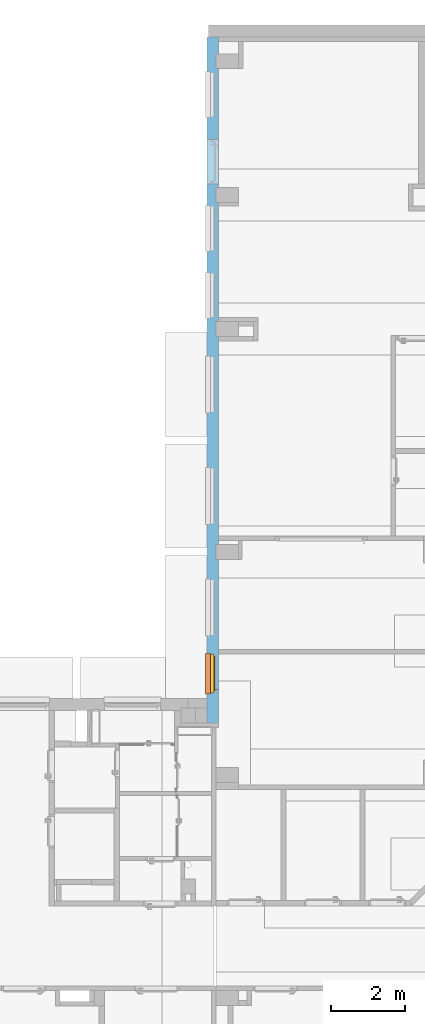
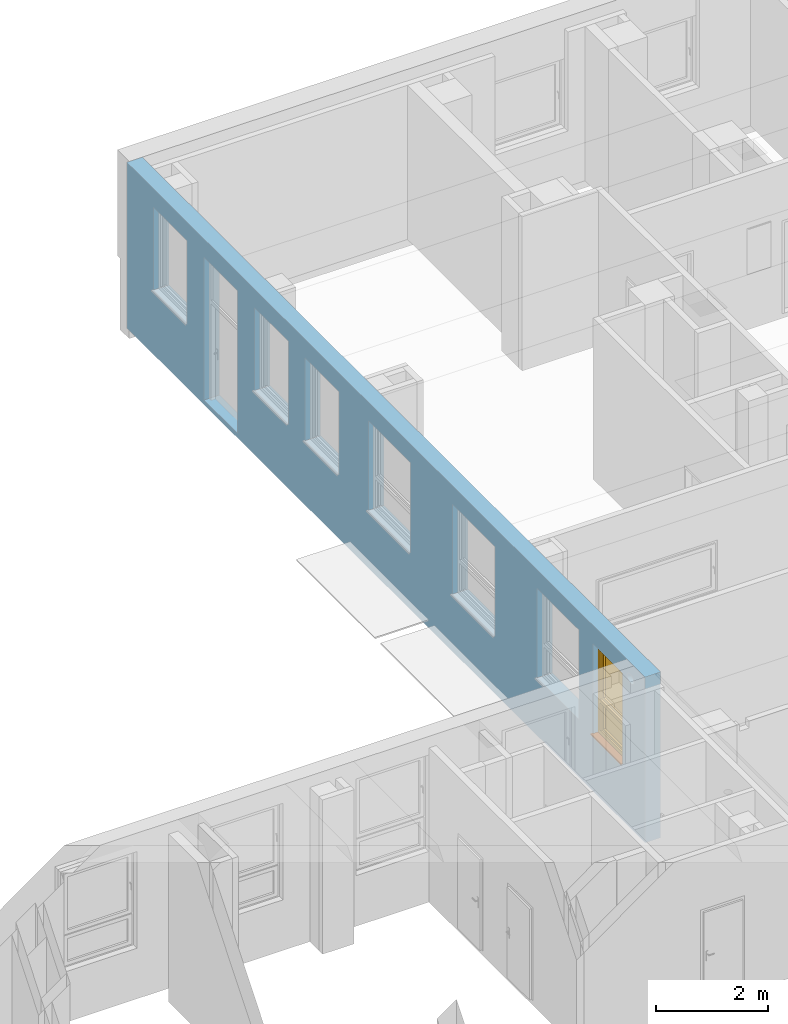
# One storey, part 94 of 140: 1 proxy, 1 window, 9 openings, plus 1 element that does not belong to this part.
"""IFC4 building model written with IfcOpenShell, lengths in metres."""

from ifc_helpers import new_model, entity, si_unit, converted_unit, derived_unit, frame, frame_2d, origin, origin_with_axes, place, context, subcontext, project, spatial, polyline, rectangle, outline, extrude, clip, bounded_halfspace, closed_shell, open_shell, faceted_brep, surface_model, source, transform, mapped, material, layer, layer_set, layer_usage, element, fill, save


model = new_model("IFC4")

# Units and contexts
model_context = context("Model", 3, precision=1e-05, world=origin())
body_context = subcontext(model_context, "Body", "Model", "MODEL_VIEW")
ifc_project = project(units=[si_unit("LENGTHUNIT", "METRE"), si_unit("AREAUNIT", "SQUARE_METRE"), si_unit("VOLUMEUNIT", "CUBIC_METRE"), si_unit("MASSUNIT", "GRAM", prefix="KILO"), converted_unit("PLANEANGLEUNIT", "DEGREE", entity("IfcPlaneAngleMeasure", 0.0174532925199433), si_unit("PLANEANGLEUNIT", "RADIAN"), dimensions=[0, 0, 0, 0, 0, 0, 0]), derived_unit("THERMALTRANSMITTANCEUNIT", [(si_unit("POWERUNIT", "WATT"), 1), (si_unit("THERMODYNAMICTEMPERATUREUNIT", "KELVIN"), -1), (si_unit("LENGTHUNIT", "METRE"), -2)]), derived_unit("VOLUMETRICFLOWRATEUNIT", [(si_unit("LENGTHUNIT", "METRE"), 3), (converted_unit("TIMEUNIT", "hour", entity("IfcTimeMeasure", 3600.0), si_unit("TIMEUNIT", "SECOND"), dimensions=[0, 0, 1, 0, 0, 0, 0]), -1), (si_unit("LENGTHUNIT", "METRE"), -1)])], contexts=[model_context])

# Site, building, storey
site_placement = place(None, origin())
site = spatial("IfcSite", under=ifc_project, at=site_placement, Name="3. ASŘ", CompositionType="ELEMENT")
building_placement = place(site_placement, origin())
building = spatial("IfcBuilding", under=site, at=building_placement, Name="Pavilon C", CompositionType="ELEMENT")
storey_placement = place(building_placement, origin())
storey = spatial("IfcBuildingStorey", under=building, at=storey_placement, Name="Půdorys 1.NP", CompositionType="ELEMENT", Elevation=0.0)

# Wall, openings, window, proxy
ifc_material_1 = material(Name="ZELEZOBETONOVÁ KCE")
ifc_layer = layer(ifc_material_1, 0.32)
ifc_layer_set = layer_set([ifc_layer])
ifc_layer_usage = layer_usage(ifc_layer_set, "AXIS2", "POSITIVE", 0.0)
wall_placement = place(storey_placement, frame((24.5, 33.05, -0.1), z_axis=(0.0, 0.0, 1.0), x_axis=(-1.97180423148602e-16, -1.0, 0.0)))
wall = element("IfcWall", 1, at=wall_placement, inside=storey, material=ifc_layer_usage, Name="ZELEZOBETONOVÁ KCE", context=body_context, shape_type="Clipping", body=[
    clip(clip(clip(clip(extrude(rectangle(XDim=18.45, YDim=0.32, at=frame_2d((9.225, 0.16), x_axis=(1.0, 0.0))), origin_with_axes(), (0.0, 0.0, 1.0), 3.6), bounded_halfspace(frame((0.65, 0.285, 3.35), z_axis=(0.0, 0.0, 1.0), x_axis=(1.97180423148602e-16, -1.0, 0.0)), True, origin_with_axes(), polyline([(0.45, 0.32), (0.45, 0.250000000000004), (0.85, 0.250000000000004), (0.85, 0.32), (0.45, 0.32)]))), bounded_halfspace(frame((4.25, 0.285000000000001, 3.35), z_axis=(0.0, 0.0, 1.0), x_axis=(1.97180423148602e-16, -1.0, 0.0)), True, origin_with_axes(), polyline([(4.05, 0.320000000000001), (4.05, 0.250000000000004), (4.45, 0.250000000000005), (4.45, 0.320000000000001), (4.05, 0.320000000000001)]))), bounded_halfspace(frame((7.85, 0.285000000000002, 3.35), z_axis=(0.0, 0.0, 1.0), x_axis=(1.97180423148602e-16, -1.0, 0.0)), True, origin_with_axes(), polyline([(7.65, 0.320000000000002), (7.65, 0.250000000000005), (8.05, 0.250000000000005), (8.05, 0.320000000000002), (7.65, 0.320000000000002)]))), bounded_halfspace(frame((13.85, 0.285000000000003, 3.35), z_axis=(0.0, 0.0, 1.0), x_axis=(1.97180423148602e-16, -1.0, 0.0)), True, origin_with_axes(), polyline([(13.65, 0.320000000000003), (13.65, 0.250000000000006), (14.05, 0.250000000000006), (14.05, 0.320000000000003), (13.65, 0.320000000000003)]))),
])
opening_1_placement = place(wall_placement, frame((18.3295933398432, 0.32, 3.15000000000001), z_axis=(-0.642787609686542, -0.766044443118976, 0.0), x_axis=(0.0, 0.0, 1.0)))
element("IfcOpeningElement", 2, at=opening_1_placement, cuts=wall, Name="CHL", ObjectType="Opening", context=body_context, shape_type="SweptSolid", body=[
    extrude(outline(polyline([(0.0999999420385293, 0.0), (0.0895470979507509, 0.000547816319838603), (0.0792087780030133, 0.00218525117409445), (0.0690982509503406, 0.00489436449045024), (0.059326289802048, 0.00864547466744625), (0.0499999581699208, 0.0133974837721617), (0.0412214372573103, 0.0190983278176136), (0.0330869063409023, 0.0256855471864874), (0.0256854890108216, 0.0330869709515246), (0.0190982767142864, 0.041221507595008), (0.0133974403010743, 0.0500000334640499), (0.00864543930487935, 0.0593263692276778), (0.0048943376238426, 0.0690983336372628), (0.00218523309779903, 0.0792088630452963), (0.000547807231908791, 0.0895471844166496), (0.0, 0.10000002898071), (0.000547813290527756, 0.110452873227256), (0.00218524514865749, 0.120791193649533), (0.00489435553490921, 0.130901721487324), (0.00864546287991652, 0.140673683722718), (0.0133974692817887, 0.150000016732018), (0.0190983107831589, 0.158778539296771), (0.0256855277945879, 0.166913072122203), (0.0330869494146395, 0.174314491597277), (0.0412214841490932, 0.180901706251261), (0.0500000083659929, 0.186602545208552), (0.0593263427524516, 0.191354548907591), (0.06909830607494, 0.195105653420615), (0.0792088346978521, 0.197814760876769), (0.0895471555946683, 0.199452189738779), (0.0999999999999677, 0.2), (0.110452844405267, 0.199452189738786), (0.120791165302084, 0.197814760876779), (0.130901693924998, 0.195105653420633), (0.140673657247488, 0.191354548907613), (0.14999999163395, 0.186602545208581), (0.158778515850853, 0.180901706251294), (0.16691305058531, 0.174314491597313), (0.174314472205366, 0.166913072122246), (0.180901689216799, 0.158778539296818), (0.186602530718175, 0.150000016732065), (0.191354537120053, 0.140673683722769), (0.195105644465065, 0.130901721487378), (0.197814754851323, 0.120791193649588), (0.199452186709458, 0.11045287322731), (0.199999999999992, 0.100000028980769), (0.199452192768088, 0.0895471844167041), (0.197814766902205, 0.0792088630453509), (0.195105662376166, 0.0690983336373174), (0.191354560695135, 0.0593263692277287), (0.186602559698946, 0.0500000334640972), (0.180901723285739, 0.0412215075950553), (0.174314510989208, 0.0330869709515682), (0.166913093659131, 0.0256855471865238), (0.158778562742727, 0.0190983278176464), (0.15000004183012, 0.0133974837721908), (0.140673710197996, 0.00864547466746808), (0.130901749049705, 0.00489436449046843), (0.120791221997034, 0.00218525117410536), (0.110452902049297, 0.000547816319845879), (0.0999999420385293, 0.0)])), origin_with_axes(), (0.0, 0.0, 1.0), 0.952730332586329),
])
opening_2_placement = place(wall_placement, frame((14.6, -7.5914462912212e-16, 1.25), z_axis=(0.0, 1.0, 0.0), x_axis=(0.0, 0.0, 1.0)))
element("IfcOpeningElement", 3, at=opening_2_placement, cuts=wall, Name="Okenní otvor", ObjectType="Opening", context=body_context, shape_type="SweptSolid", body=[
    extrude(outline(polyline([(0.0, 1.5), (1.95, 1.5), (1.95, 0.0), (0.0, 0.0), (0.0, 1.5)])), origin_with_axes(), (0.0, 0.0, 1.0), 0.32),
])
opening_3_placement = place(wall_placement, frame((11.6, -1.35068589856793e-15, 1.25), z_axis=(0.0, 1.0, 0.0), x_axis=(0.0, 0.0, 1.0)))
element("IfcOpeningElement", 4, at=opening_3_placement, cuts=wall, Name="Okenní otvor", ObjectType="Opening", context=body_context, shape_type="SweptSolid", body=[
    extrude(outline(polyline([(0.0, 1.5), (1.95, 1.5), (1.95, 0.0), (0.0, 0.0), (0.0, 1.5)])), origin_with_axes(), (0.0, 0.0, 1.0), 0.32),
])
opening_4_placement = place(wall_placement, frame((8.6, -1.94222716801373e-15, 1.25), z_axis=(0.0, 1.0, 0.0), x_axis=(0.0, 0.0, 1.0)))
element("IfcOpeningElement", 5, at=opening_4_placement, cuts=wall, Name="Okenní otvor", ObjectType="Opening", context=body_context, shape_type="SweptSolid", body=[
    extrude(outline(polyline([(0.0, 1.5), (1.95, 1.5), (1.95, 0.0), (0.0, 0.0), (0.0, 1.5)])), origin_with_axes(), (0.0, 0.0, 1.0), 0.320000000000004),
])
opening_5_placement = place(wall_placement, frame((6.35, 1.25209568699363e-15, 1.4), z_axis=(0.0, 1.0, 0.0), x_axis=(0.0, 0.0, 1.0)))
element("IfcOpeningElement", 6, at=opening_5_placement, cuts=wall, Name="Okenní otvor", ObjectType="Opening", context=body_context, shape_type="SweptSolid", body=[
    extrude(outline(polyline([(0.0, 1.2), (1.8, 1.2), (1.8, 0.0), (0.0, 0.0), (0.0, 1.2)])), origin_with_axes(), (0.0, 0.0, 1.0), 0.32),
])
opening_6_placement = place(wall_placement, frame((4.55000000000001, 8.97170925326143e-16, 1.4), z_axis=(0.0, 1.0, 0.0), x_axis=(0.0, 0.0, 1.0)))
element("IfcOpeningElement", 7, at=opening_6_placement, cuts=wall, Name="Okenní otvor", ObjectType="Opening", context=body_context, shape_type="SweptSolid", body=[
    extrude(outline(polyline([(0.0, 1.2), (1.8, 1.2), (1.8, 0.0), (0.0, 0.0), (0.0, 1.2)])), origin_with_axes(), (0.0, 0.0, 1.0), 0.32),
])
opening_7_placement = place(wall_placement, frame((0.950000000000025, 1.87321401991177e-16, 1.4), z_axis=(-3.5527136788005e-16, 1.0, 0.0), x_axis=(0.0, 0.0, 1.0)))
element("IfcOpeningElement", 8, at=opening_7_placement, cuts=wall, Name="Okenní otvor", ObjectType="Opening", context=body_context, shape_type="SweptSolid", body=[
    extrude(outline(polyline([(0.0, 1.2), (1.8, 1.2), (1.8, 0.0), (0.0, 0.0), (0.0, 1.2)])), origin_with_axes(), (0.0, 0.0, 1.0), 0.32),
])
opening_8_placement = place(wall_placement, frame((2.75000000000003, 5.42246163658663e-16, 0.1), z_axis=(0.0, 1.0, 0.0), x_axis=(0.0, 0.0, 1.0)))
element("IfcOpeningElement", 9, at=opening_8_placement, cuts=wall, Name="Dveřní otvor", ObjectType="Opening", context=body_context, shape_type="SweptSolid", body=[
    extrude(outline(polyline([(0.0, 1.2), (3.1, 1.2), (3.1, 0.0), (0.0, 0.0), (0.0, 1.2)])), origin_with_axes(), (0.0, 0.0, 1.0), 0.32),
])
opening_9_placement = place(wall_placement, frame((16.6, -3.64783782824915e-16, 1.25), z_axis=(0.0, 1.0, 0.0), x_axis=(0.0, 0.0, 1.0)))
opening_9 = element("IfcOpeningElement", 10, at=opening_9_placement, cuts=wall, Name="Okenní otvor", ObjectType="Opening", context=body_context, shape_type="SweptSolid", body=[
    extrude(outline(polyline([(0.0, 1.05), (1.95, 1.05), (1.95, 0.0), (0.0, 0.0), (0.0, 1.05)])), origin_with_axes(), (0.0, 0.0, 1.0), 0.32),
])
shared_shape_1 = source(origin_with_axes(), body_context, "Body", "SurfaceModel", [
    surface_model("IfcShellBasedSurfaceModel", [(0.0, 0.182, 1.95), (0.0, 0.182, -5.63337527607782e-18), (0.08, 0.182, -5.63337527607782e-18), (0.08, 0.182, 1.95), (0.0, 0.0899999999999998, 5.63337527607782e-18), (0.0, 0.0900000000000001, 1.95), (0.08, 0.0900000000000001, 1.95), (0.08, 0.0899999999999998, 5.63337527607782e-18)], [closed_shell([[[0, 1, 2, 3]], [[4, 5, 6, 7]], [[1, 0, 5, 4]], [[2, 1, 4, 7]], [[3, 2, 7, 6]], [[0, 3, 6, 5]]], orient=[[False], [False], [False], [False], [False], [False]])]),
    surface_model("IfcShellBasedSurfaceModel", [(0.97, 0.182, 1.95), (0.97, 0.182, -5.63337527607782e-18), (1.05, 0.182, -5.63337527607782e-18), (1.05, 0.182, 1.95), (0.97, 0.0899999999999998, 5.63337527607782e-18), (0.97, 0.0900000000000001, 1.95), (1.05, 0.0900000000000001, 1.95), (1.05, 0.0899999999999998, 5.63337527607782e-18)], [closed_shell([[[0, 1, 2, 3]], [[4, 5, 6, 7]], [[1, 0, 5, 4]], [[2, 1, 4, 7]], [[3, 2, 7, 6]], [[0, 3, 6, 5]]], orient=[[False], [False], [False], [False], [False], [False]])]),
    surface_model("IfcShellBasedSurfaceModel", [(0.08, 0.182, 0.08), (0.08, 0.182, -5.63337527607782e-18), (0.97, 0.182, -5.63337527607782e-18), (0.97, 0.182, 0.08), (0.08, 0.0899999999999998, 5.63337527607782e-18), (0.08, 0.0899999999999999, 0.08), (0.97, 0.0899999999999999, 0.08), (0.97, 0.0899999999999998, 5.63337527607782e-18)], [closed_shell([[[0, 1, 2, 3]], [[4, 5, 6, 7]], [[1, 0, 5, 4]], [[2, 1, 4, 7]], [[3, 2, 7, 6]], [[0, 3, 6, 5]]], orient=[[False], [False], [False], [False], [False], [False]])]),
    surface_model("IfcShellBasedSurfaceModel", [(0.08, 0.182, 1.95), (0.08, 0.182, 1.87), (0.97, 0.182, 1.87), (0.97, 0.182, 1.95), (0.08, 0.0900000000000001, 1.87), (0.08, 0.0900000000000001, 1.95), (0.97, 0.0900000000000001, 1.95), (0.97, 0.0900000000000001, 1.87)], [closed_shell([[[0, 1, 2, 3]], [[4, 5, 6, 7]], [[1, 0, 5, 4]], [[2, 1, 4, 7]], [[3, 2, 7, 6]], [[0, 3, 6, 5]]], orient=[[False], [False], [False], [False], [False], [False]])]),
    surface_model("IfcShellBasedSurfaceModel", [(0.08, 0.182, 0.76), (0.08, 0.182, 0.68), (0.97, 0.182, 0.68), (0.97, 0.182, 0.76), (0.08, 0.0899999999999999, 0.68), (0.08, 0.0899999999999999, 0.76), (0.97, 0.0899999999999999, 0.76), (0.97, 0.0899999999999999, 0.68)], [closed_shell([[[0, 1, 2, 3]], [[4, 5, 6, 7]], [[1, 0, 5, 4]], [[2, 1, 4, 7]], [[3, 2, 7, 6]], [[0, 3, 6, 5]]], orient=[[False], [False], [False], [False], [False], [False]])]),
    surface_model("IfcShellBasedSurfaceModel", [(0.05, 0.145, 0.71), (0.05, 0.145, 0.05), (0.13, 0.145, 0.05), (0.13, 0.145, 0.71), (0.05, 0.0599999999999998, 0.05), (0.05, 0.0599999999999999, 0.71), (0.13, 0.0599999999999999, 0.71), (0.13, 0.0599999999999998, 0.05)], [closed_shell([[[0, 1, 2, 3]], [[4, 5, 6, 7]], [[1, 0, 5, 4]], [[2, 1, 4, 7]], [[3, 2, 7, 6]], [[0, 3, 6, 5]]], orient=[[False], [False], [False], [False], [False], [False]])]),
    surface_model("IfcShellBasedSurfaceModel", [(0.92, 0.145, 0.71), (0.92, 0.145, 0.05), (1.0, 0.145, 0.05), (1.0, 0.145, 0.71), (0.92, 0.0599999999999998, 0.05), (0.92, 0.0599999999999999, 0.71), (1.0, 0.0599999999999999, 0.71), (1.0, 0.0599999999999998, 0.05)], [closed_shell([[[0, 1, 2, 3]], [[4, 5, 6, 7]], [[1, 0, 5, 4]], [[2, 1, 4, 7]], [[3, 2, 7, 6]], [[0, 3, 6, 5]]], orient=[[False], [False], [False], [False], [False], [False]])]),
    surface_model("IfcShellBasedSurfaceModel", [(0.13, 0.145, 0.13), (0.13, 0.145, 0.05), (0.92, 0.145, 0.05), (0.92, 0.145, 0.13), (0.13, 0.0599999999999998, 0.05), (0.13, 0.0599999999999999, 0.13), (0.92, 0.0599999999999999, 0.13), (0.92, 0.0599999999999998, 0.05)], [closed_shell([[[0, 1, 2, 3]], [[4, 5, 6, 7]], [[1, 0, 5, 4]], [[2, 1, 4, 7]], [[3, 2, 7, 6]], [[0, 3, 6, 5]]], orient=[[False], [False], [False], [False], [False], [False]])]),
    surface_model("IfcShellBasedSurfaceModel", [(0.13, 0.145, 0.71), (0.13, 0.145, 0.63), (0.92, 0.145, 0.63), (0.92, 0.145, 0.71), (0.13, 0.0599999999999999, 0.63), (0.13, 0.0599999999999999, 0.71), (0.92, 0.0599999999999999, 0.71), (0.92, 0.0599999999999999, 0.63)], [closed_shell([[[0, 1, 2, 3]], [[4, 5, 6, 7]], [[1, 0, 5, 4]], [[2, 1, 4, 7]], [[3, 2, 7, 6]], [[0, 3, 6, 5]]], orient=[[False], [False], [False], [False], [False], [False]])]),
    surface_model("IfcShellBasedSurfaceModel", [(0.05, 0.145, 1.9), (0.05, 0.145, 0.73), (0.13, 0.145, 0.73), (0.13, 0.145, 1.9), (0.05, 0.0599999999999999, 0.73), (0.05, 0.0600000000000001, 1.9), (0.13, 0.0600000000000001, 1.9), (0.13, 0.0599999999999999, 0.73)], [closed_shell([[[0, 1, 2, 3]], [[4, 5, 6, 7]], [[1, 0, 5, 4]], [[2, 1, 4, 7]], [[3, 2, 7, 6]], [[0, 3, 6, 5]]], orient=[[False], [False], [False], [False], [False], [False]])]),
    surface_model("IfcShellBasedSurfaceModel", [(0.92, 0.145, 1.9), (0.92, 0.145, 0.73), (1.0, 0.145, 0.73), (1.0, 0.145, 1.9), (0.92, 0.0599999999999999, 0.73), (0.92, 0.0600000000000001, 1.9), (1.0, 0.0600000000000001, 1.9), (1.0, 0.0599999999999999, 0.73)], [closed_shell([[[0, 1, 2, 3]], [[4, 5, 6, 7]], [[1, 0, 5, 4]], [[2, 1, 4, 7]], [[3, 2, 7, 6]], [[0, 3, 6, 5]]], orient=[[False], [False], [False], [False], [False], [False]])]),
    surface_model("IfcShellBasedSurfaceModel", [(0.13, 0.145, 0.81), (0.13, 0.145, 0.73), (0.92, 0.145, 0.73), (0.92, 0.145, 0.81), (0.13, 0.0599999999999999, 0.73), (0.13, 0.0599999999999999, 0.81), (0.92, 0.0599999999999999, 0.81), (0.92, 0.0599999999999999, 0.73)], [closed_shell([[[0, 1, 2, 3]], [[4, 5, 6, 7]], [[1, 0, 5, 4]], [[2, 1, 4, 7]], [[3, 2, 7, 6]], [[0, 3, 6, 5]]], orient=[[False], [False], [False], [False], [False], [False]])]),
    surface_model("IfcShellBasedSurfaceModel", [(0.13, 0.145, 1.9), (0.13, 0.145, 1.82), (0.92, 0.145, 1.82), (0.92, 0.145, 1.9), (0.13, 0.0600000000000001, 1.82), (0.13, 0.0600000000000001, 1.9), (0.92, 0.0600000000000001, 1.9), (0.92, 0.0600000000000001, 1.82)], [closed_shell([[[0, 1, 2, 3]], [[4, 5, 6, 7]], [[1, 0, 5, 4]], [[2, 1, 4, 7]], [[3, 2, 7, 6]], [[0, 3, 6, 5]]], orient=[[False], [False], [False], [False], [False], [False]])]),
    surface_model("IfcShellBasedSurfaceModel", [(0.0775, 0.06, 1.335), (0.0775, 0.06, 1.295), (0.1025, 0.06, 1.295), (0.1025, 0.06, 1.335), (0.0775, 0.05, 1.295), (0.0775, 0.05, 1.335), (0.1025, 0.05, 1.335), (0.1025, 0.05, 1.295)], [closed_shell([[[0, 1, 2, 3]], [[4, 5, 6, 7]], [[1, 0, 5, 4]], [[2, 1, 4, 7]], [[3, 2, 7, 6]], [[0, 3, 6, 5]]], orient=[[False], [False], [False], [False], [False], [False]])]),
    surface_model("IfcShellBasedSurfaceModel", [(0.1, 0.05, 1.315), (0.0986602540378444, 0.05, 1.32), (0.095, 0.05, 1.32366025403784), (0.09, 0.05, 1.325), (0.085, 0.05, 1.32366025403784), (0.0813397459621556, 0.05, 1.32), (0.08, 0.05, 1.315), (0.0813397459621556, 0.05, 1.31), (0.085, 0.05, 1.30633974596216), (0.09, 0.05, 1.305), (0.095, 0.05, 1.30633974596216), (0.0986602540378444, 0.05, 1.31), (0.1, 0.01, 1.315), (0.0986602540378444, 0.00500000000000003, 1.32), (0.095, 0.00133974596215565, 1.32366025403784), (0.09, 2.8421709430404e-17, 1.325), (0.085, 0.00133974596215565, 1.32366025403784), (0.0813397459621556, 0.00500000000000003, 1.32), (0.08, 0.01, 1.315), (0.0813397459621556, 0.015, 1.31), (0.085, 0.0186602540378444, 1.30633974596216), (0.09, 0.02, 1.305), (0.095, 0.0186602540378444, 1.30633974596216), (0.0986602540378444, 0.015, 1.31), (0.1, 0.01, 1.2), (0.0986602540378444, 0.005, 1.2), (0.095, 0.00133974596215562, 1.2), (0.09, 0.0, 1.2), (0.085, 0.00133974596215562, 1.2), (0.0813397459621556, 0.005, 1.2), (0.08, 0.01, 1.2), (0.0813397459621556, 0.015, 1.2), (0.085, 0.0186602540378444, 1.2), (0.09, 0.02, 1.2), (0.095, 0.0186602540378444, 1.2), (0.0986602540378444, 0.015, 1.2)], [open_shell([[[0, 1, 2, 3, 4, 5, 6, 7, 8, 9, 10, 11]], [[0, 12, 13, 1]], [[1, 13, 14, 2]], [[2, 14, 15, 3]], [[3, 15, 16, 4]], [[4, 16, 17, 5]], [[5, 17, 18, 6]], [[6, 18, 19, 7]], [[7, 19, 20, 8]], [[8, 20, 21, 9]], [[9, 21, 22, 10]], [[10, 22, 23, 11]], [[11, 23, 12, 0]], [[12, 24, 25, 13]], [[13, 25, 26, 14]], [[14, 26, 27, 15]], [[15, 27, 28, 16]], [[16, 28, 29, 17]], [[17, 29, 30, 18]], [[18, 30, 31, 19]], [[19, 31, 32, 20]], [[20, 32, 33, 21]], [[21, 33, 34, 22]], [[22, 34, 35, 23]], [[23, 35, 24, 12]]], orient=[[False], [False], [False], [False], [False], [False], [False], [False], [False], [False], [False], [False], [False], [False], [False], [False], [False], [False], [False], [False], [False], [False], [False], [False], [False]])]),
    surface_model("IfcShellBasedSurfaceModel", [(0.13, 0.1025, 0.13), (0.92, 0.1025, 0.13), (0.92, 0.1025, 0.63), (0.13, 0.1025, 0.63)], [open_shell([[[0, 1, 2, 3]]], orient=[[False]])]),
    surface_model("IfcShellBasedSurfaceModel", [(0.13, 0.1025, 0.81), (0.92, 0.1025, 0.81), (0.92, 0.1025, 1.82), (0.13, 0.1025, 1.82)], [open_shell([[[0, 1, 2, 3]]], orient=[[False]])]),
])
window_placement = place(opening_9_placement, frame((0.0, 1.05, 0.281999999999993), z_axis=(1.0, 0.0, 0.0), x_axis=(0.0, -0.999999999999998, -7.47157432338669e-17)))
window = element("IfcWindow", 11, at=window_placement, inside=storey, Name="O06", OverallHeight=1.95, OverallWidth=1.05, PartitioningType="USERDEFINED", PredefinedType="WINDOW", context=body_context, shape_type="MappedRepresentation", body=[
    mapped(shared_shape_1, transform((0.0, 0.0, 0.0), x_axis=(1.0, 0.0, 0.0), y_axis=(0.0, 1.0, 0.0), z_axis=(0.0, 0.0, 1.0), scale=0.999999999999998)),
])
fill(opening_9, window)
ifc_material_2 = material(Name="PLECH")
shared_shape_2 = source(origin_with_axes(), body_context, "Body", "Brep", [
    faceted_brep([(7.27595761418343e-15, -7.27595761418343e-15, 0.0), (7.27595761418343e-15, 0.0999999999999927, 0.0), (7.27595761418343e-15, 0.0999999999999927, 0.005), (7.27595761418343e-15, -7.27595761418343e-15, 0.005), (1.05, -7.27595761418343e-15, 0.0), (1.05, -7.27595761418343e-15, 0.005), (1.05, 0.0999999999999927, 0.005), (1.05, 0.0999999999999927, 0.0), (-0.0199999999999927, -7.27595761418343e-15, 0.0), (-0.0199999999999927, -0.0350000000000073, 0.0), (1.07, -0.0350000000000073, 0.0), (1.07, -7.27595761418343e-15, 0.0), (1.07, -7.27595761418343e-15, 0.005), (1.07, -0.0400000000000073, 0.005), (-0.0199999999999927, -0.0400000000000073, 0.005), (-0.0199999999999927, -7.27595761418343e-15, 0.005), (-0.0199999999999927, -0.0400000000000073, -0.025), (-0.0199999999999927, -0.0350000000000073, -0.025), (1.07, -0.0350000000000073, -0.025), (1.07, -0.0400000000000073, -0.025)], [[[0, 1, 2, 3]], [[4, 5, 6, 7]], [[1, 0, 8, 9, 10, 11, 4, 7]], [[2, 1, 7, 6]], [[3, 2, 6, 5, 12, 13, 14, 15]], [[8, 15, 14, 16, 17, 9]], [[11, 10, 18, 19, 13, 12]], [[15, 8, 0, 3]], [[5, 4, 11, 12]], [[16, 14, 13, 19]], [[17, 16, 19, 18]], [[9, 17, 18, 10]]], orient=[[False], [False], [False], [False], [False], [False], [False], [False], [False], [False], [False], [False]]),
    faceted_brep([(-0.0199999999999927, -7.27595761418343e-15, 0.0), (-0.0199999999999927, 0.0999999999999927, 0.0), (-0.0199999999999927, 0.0999999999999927, 0.005), (-0.0199999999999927, -7.27595761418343e-15, 0.005), (7.27595761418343e-15, -7.27595761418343e-15, 0.0), (7.27595761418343e-15, -7.27595761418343e-15, 0.005), (7.27595761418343e-15, 0.0999999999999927, 0.005), (7.27595761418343e-15, 0.0999999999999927, 0.0)], [[[0, 1, 2, 3]], [[4, 5, 6, 7]], [[1, 0, 4, 7]], [[2, 1, 7, 6]], [[3, 2, 6, 5]], [[0, 3, 5, 4]]], orient=[[False], [False], [False], [False], [False], [False]]),
    faceted_brep([(1.05, -7.27595761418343e-15, 0.0), (1.05, 0.0999999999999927, 0.0), (1.05, 0.0999999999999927, 0.005), (1.05, -7.27595761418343e-15, 0.005), (1.07, -7.27595761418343e-15, 0.0), (1.07, -7.27595761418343e-15, 0.005), (1.07, 0.0999999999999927, 0.005), (1.07, 0.0999999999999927, 0.0)], [[[0, 1, 2, 3]], [[4, 5, 6, 7]], [[1, 0, 4, 7]], [[2, 1, 7, 6]], [[3, 2, 6, 5]], [[0, 3, 5, 4]]], orient=[[False], [False], [False], [False], [False], [False]]),
])
proxy_placement = place(opening_9_placement, frame((0.0, 0.0, 0.0), z_axis=(1.0, 0.0, 0.0), x_axis=(0.0, 1.0, 0.0)))
proxy = element("IfcBuildingElementProxy", 12, at=proxy_placement, inside=storey, material=ifc_material_2, Name="Parapet vnější", context=body_context, shape_type="MappedRepresentation", body=[
    mapped(shared_shape_2, transform((0.0, 0.0, 0.0), x_axis=(1.0, 0.0, 0.0), y_axis=(0.0, 1.0, 0.0), z_axis=(0.0, 0.0, 1.0), scale=1.0)),
])
fill(opening_9, proxy)

save(model, "model.ifc")
